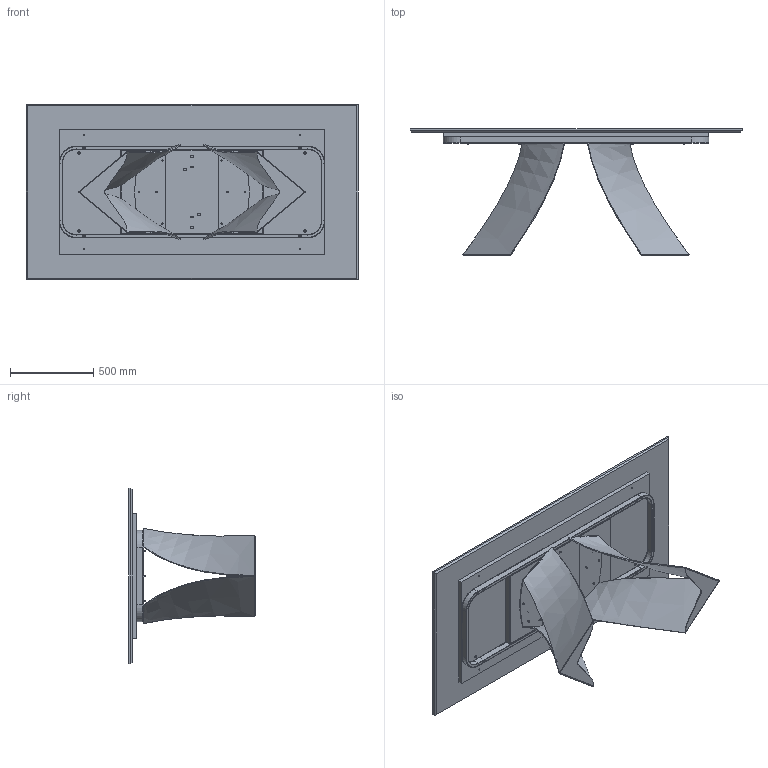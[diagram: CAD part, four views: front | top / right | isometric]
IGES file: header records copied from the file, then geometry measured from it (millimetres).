
Start section: SolidWorks IGES file using analytic representation for surfaces
Global section: file name: Y:\eforma\TECNICO\SOLIDWORKS\E-FORMA\1-TAVOLI\TWIST\02 parts\TW21M.IGS; native system: SolidWorks 2022; preprocessor: SolidWorks 2022; author: eforma.tech; date: 240807.143912; units: millimetre
Bounding box: 2000 x 760.37 x 1060 mm (x, y, z)
Volume: 82462991.5 mm3; surface area: 11254184.6 mm2
Topology: 53 solids, 53 shells, 1326 faces, 3116 edges, 1861 vertices
Faces by surface type: revolution 782, plane 478, bspline 66
